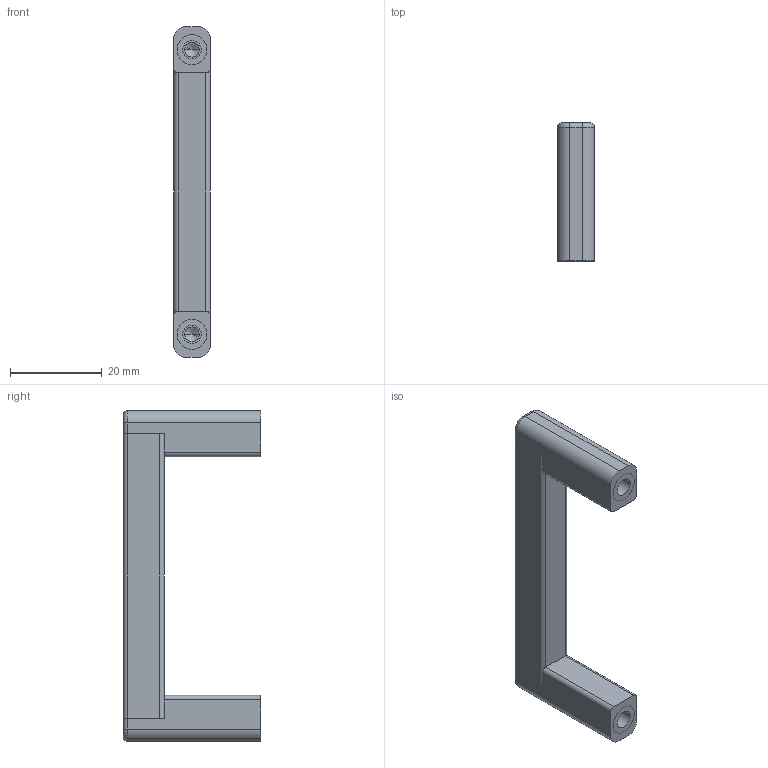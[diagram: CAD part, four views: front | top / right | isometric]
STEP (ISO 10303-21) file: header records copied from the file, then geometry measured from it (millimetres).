
FILE_DESCRIPTION (( 'STEP AP203' ), '1' );
FILE_NAME ('79350.W0062-4.step', '2018-04-28T14:55:08', ( '' ), ( '' ), 'SwSTEP 2.0', 'SolidWorks 2017', '' );
FILE_SCHEMA (( 'CONFIG_CONTROL_DESIGN' ));
Length unit declared in the file: millimetre
Products named in the file (3): Part3_79350.W0062-4; 79350.W0062-4; Part1
Assembly tree (3 placements, depth 2):
  79350.W0062-4
    Part3_79350.W0062-4
    Part1  x2
Bounding box: 8 x 30 x 72 mm (x, y, z)
Volume: 7687.9 mm3; surface area: 6666.6 mm2
Topology: 5 solids, 5 shells, 110 faces, 266 edges, 162 vertices
Faces by surface type: cylinder 46, plane 40, cone 12, torus 12
Entity records: 2190 total; most frequent: DIRECTION 355, CARTESIAN_POINT 318, ORIENTED_EDGE 302, EDGE_CURVE 151, AXIS2_PLACEMENT_3D 134, VERTEX_POINT 97, VECTOR 87, LINE 87
